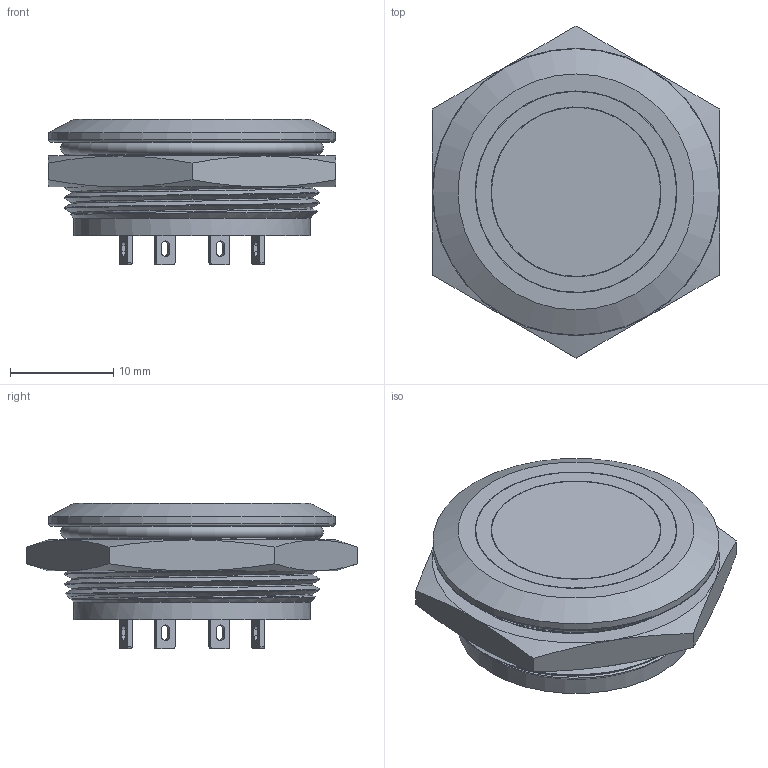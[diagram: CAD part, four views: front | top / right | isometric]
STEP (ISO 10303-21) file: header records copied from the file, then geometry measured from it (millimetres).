
FILE_DESCRIPTION(/* description */ (''),/* implementation_level */ '2;1');
FILE_NAME(/* name */ 'EJ25-271PM.stp',/* time_stamp */ '2019-11-08T13:59:37+08:00',/* author */ (''),/* organization */ (''),/* preprocessor_version */ 'ST-DEVELOPER v11',/* originating_system */ 'SIEMENS UGS NX 6.0',/* authorisation */ '');
FILE_SCHEMA (('CONFIG_CONTROL_DESIGN'));
Length unit declared in the file: millimetre
Products named in the file (8): JH8.683.034; JH7.740.176; JH7.810.262; JH8.382.077; JH7.370.456; JH8.382.281; JH8.382.283; EJ25-271PM
Assembly tree (11 placements, depth 2):
  EJ25-271PM
    JH8.382.283
    JH8.382.281
    JH7.370.456
    JH8.382.077
    JH7.810.262  x2
    JH7.740.176  x4
    JH8.683.034
Bounding box: 27.9 x 32.22 x 14.1 mm (x, y, z)
Volume: 5387.2 mm3; surface area: 8378.8 mm2
Topology: 13 solids, 14 shells, 373 faces, 946 edges, 625 vertices
Faces by surface type: plane 259, cylinder 67, cone 18, extrusion 16, torus 7, bspline 6
Full cylindrical faces by diameter (mm): 3.8 x2, 4.2 x1, 7.8 x1, 13 x1, 16.4 x1, 16.5 x1, 19.5 x1, 19.6 x1, 20.2 x1, 22.1 x2, 22.2 x1, 23 x1, 27.8 x1
Entity records: 9196 total; most frequent: CARTESIAN_POINT 3712, ORIENTED_EDGE 908, DIRECTION 864, EDGE_CURVE 454, VERTEX_POINT 312, AXIS2_PLACEMENT_3D 303, EDGE_LOOP 259, VECTOR 258
